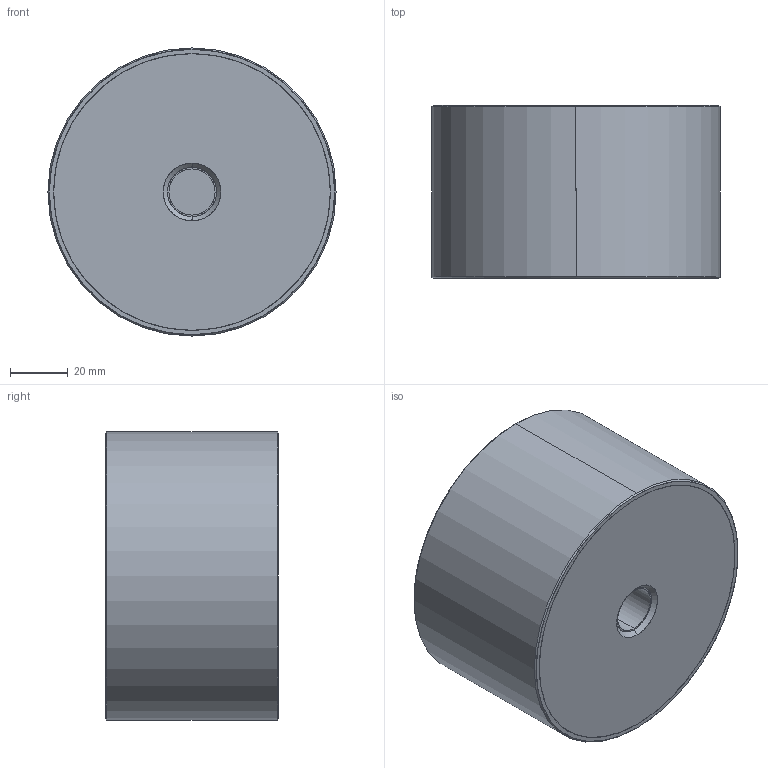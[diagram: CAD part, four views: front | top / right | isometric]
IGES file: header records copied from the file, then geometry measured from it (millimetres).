
Start section: SolidWorks IGES file using analytic representation for surfaces
Global section: file name: E:\WIXROYD 20180701\61080_v2\61080_v2_20180409_IGES\61080.W0903.igs; native system: SolidWorks 2017; preprocessor: SolidWorks 2017; author: liam_; date: 180716.214736; units: millimetre
Bounding box: 100 x 60 x 100 mm (x, y, z)
Surface area: 65757.3 mm2 (no closed solid volume)
Topology: 0 solids, 0 shells, 32 faces, 984 edges, 984 vertices
Faces by surface type: revolution 22, bspline 10
